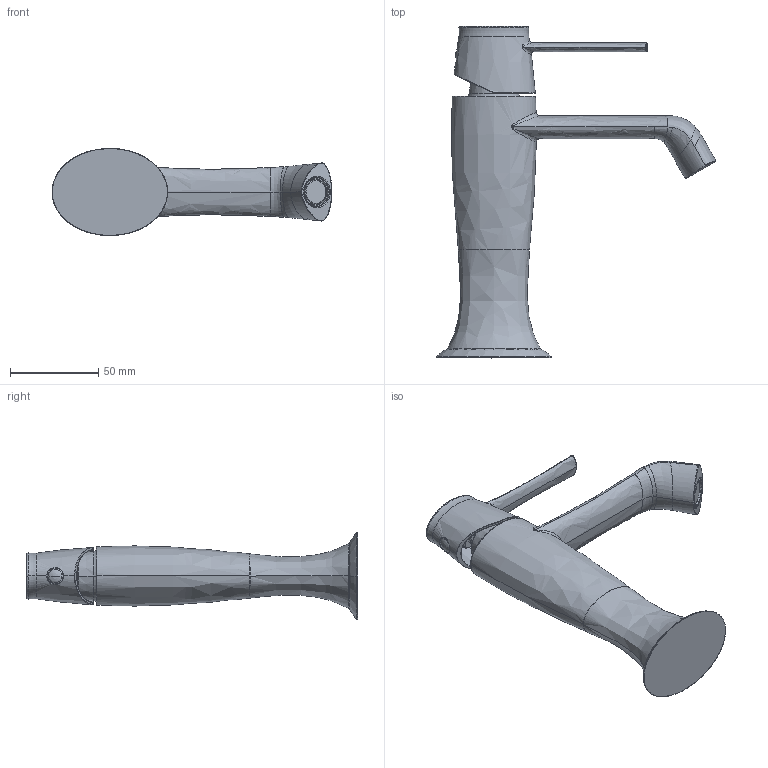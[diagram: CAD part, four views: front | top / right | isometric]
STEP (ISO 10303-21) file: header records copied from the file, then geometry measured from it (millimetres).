
FILE_DESCRIPTION((''),'2;1');
FILE_NAME('58050_SW0002','2021-03-17T15:41:49',('carloff'),(''),'CREO PARAMETRIC BY PTC INC, 2018100','CREO PARAMETRIC BY PTC INC, 2018100','');
FILE_SCHEMA(('CONFIG_CONTROL_DESIGN'));
Length unit declared in the file: millimetre
Products named in the file (1): 58050_SW0002
Bounding box: 158.13 x 187.6 x 49.3 mm (x, y, z)
Volume: 207821.3 mm3; surface area: 46143.9 mm2
Topology: 1 solids, 3 shells, 342 faces, 829 edges, 499 vertices
Faces by surface type: bspline 120, plane 92, cylinder 58, cone 39, torus 25, extrusion 6, sphere 2
Entity records: 24094 total; most frequent: CARTESIAN_POINT 16855, ORIENTED_EDGE 1654, DIRECTION 1283, EDGE_CURVE 827, AXIS2_PLACEMENT_3D 516, VERTEX_POINT 499, EDGE_LOOP 360, FACE_OUTER_BOUND 342
